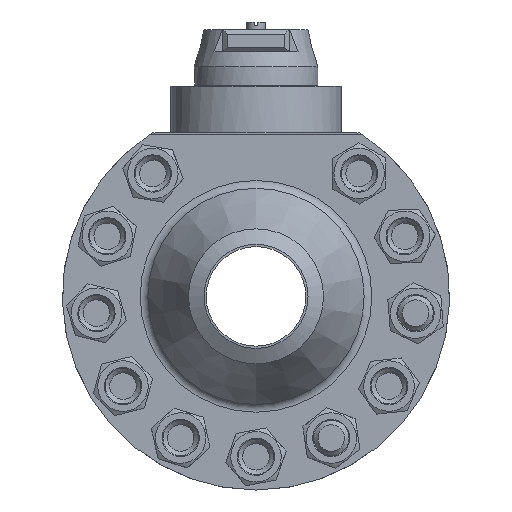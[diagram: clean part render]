
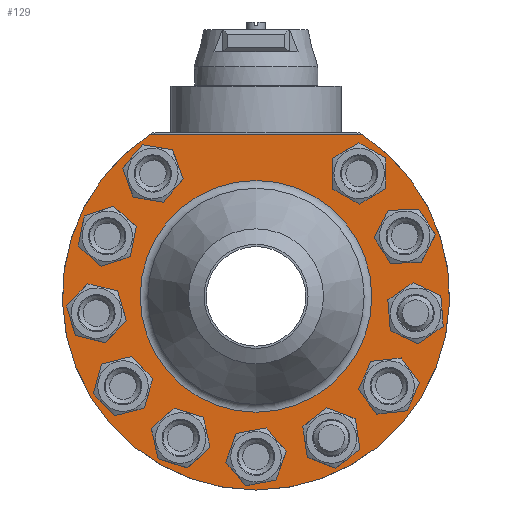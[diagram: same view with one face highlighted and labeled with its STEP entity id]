
A CAD part, left-side view. The second image highlights one B-rep face of the part: STEP entity #129.
In plain terms, the highlighted planar face has unit normal (-1, 0, 0).
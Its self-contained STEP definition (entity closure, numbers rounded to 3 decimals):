
#129=ADVANCED_FACE('',(#2927,#2929,#2931,#2933,#2935,#2937,#2939,#2941,#2943,#2945,
#2947,#2949,#2951),#2953,.T.);
#2927=FACE_BOUND('',#2928,.T.);
#2928=EDGE_LOOP('',(#7478));
#2929=FACE_BOUND('',#2930,.T.);
#2930=EDGE_LOOP('',(#7479));
#2931=FACE_BOUND('',#2932,.T.);
#2932=EDGE_LOOP('',(#7480));
#2933=FACE_BOUND('',#2934,.T.);
#2934=EDGE_LOOP('',(#7481));
#2935=FACE_BOUND('',#2936,.T.);
#2936=EDGE_LOOP('',(#7482));
#2937=FACE_BOUND('',#2938,.T.);
#2938=EDGE_LOOP('',(#7483));
#2939=FACE_BOUND('',#2940,.T.);
#2940=EDGE_LOOP('',(#7484));
#2941=FACE_BOUND('',#2942,.T.);
#2942=EDGE_LOOP('',(#7485));
#2943=FACE_BOUND('',#2944,.T.);
#2944=EDGE_LOOP('',(#7486));
#2945=FACE_BOUND('',#2946,.T.);
#2946=EDGE_LOOP('',(#7487));
#2947=FACE_BOUND('',#2948,.T.);
#2948=EDGE_LOOP('',(#7488));
#2949=FACE_BOUND('',#2950,.T.);
#2950=EDGE_LOOP('',(#7489));
#2951=FACE_OUTER_BOUND('',#2952,.T.);
#2952=EDGE_LOOP('',(#7490,#7491));
#2953=PLANE('',#2954);
#2954=AXIS2_PLACEMENT_3D('',#2955,#2956,#2957);
#2955=CARTESIAN_POINT('',(-57.5,0.,0.));
#2956=DIRECTION('',(-1.,0.,0.));
#2957=DIRECTION('',(0.,0.,-1.));
#7478=ORIENTED_EDGE('',*,*,#11202,.T.);
#7479=ORIENTED_EDGE('',*,*,#11203,.T.);
#7480=ORIENTED_EDGE('',*,*,#11204,.T.);
#7481=ORIENTED_EDGE('',*,*,#11205,.F.);
#7482=ORIENTED_EDGE('',*,*,#11206,.F.);
#7483=ORIENTED_EDGE('',*,*,#11207,.T.);
#7484=ORIENTED_EDGE('',*,*,#11208,.F.);
#7485=ORIENTED_EDGE('',*,*,#11209,.F.);
#7486=ORIENTED_EDGE('',*,*,#11210,.F.);
#7487=ORIENTED_EDGE('',*,*,#11211,.T.);
#7488=ORIENTED_EDGE('',*,*,#11212,.T.);
#7489=ORIENTED_EDGE('',*,*,#11213,.T.);
#7490=ORIENTED_EDGE('',*,*,#11190,.T.);
#7491=ORIENTED_EDGE('',*,*,#11192,.F.);
#11190=EDGE_CURVE('',#12507,#12505,#12508,.F.);
#11192=EDGE_CURVE('',#12507,#12505,#12510,.T.);
#11202=EDGE_CURVE('',#12523,#12523,#12524,.F.);
#11203=EDGE_CURVE('',#12525,#12525,#12526,.F.);
#11204=EDGE_CURVE('',#12527,#12527,#12528,.F.);
#11205=EDGE_CURVE('',#12529,#12529,#12530,.T.);
#11206=EDGE_CURVE('',#12531,#12531,#12532,.T.);
#11207=EDGE_CURVE('',#12533,#12533,#12534,.T.);
#11208=EDGE_CURVE('',#12535,#12535,#12536,.T.);
#11209=EDGE_CURVE('',#12537,#12537,#12538,.T.);
#11210=EDGE_CURVE('',#12539,#12539,#12540,.T.);
#11211=EDGE_CURVE('',#12541,#12541,#12542,.F.);
#11212=EDGE_CURVE('',#12543,#12543,#12544,.F.);
#11213=EDGE_CURVE('',#12545,#12545,#12546,.F.);
#12505=VERTEX_POINT('',#14683);
#12507=VERTEX_POINT('',#14687);
#12508=LINE('',#14688,#14689);
#12510=CIRCLE('',#14694,87.5);
#12523=VERTEX_POINT('',#14734);
#12524=CIRCLE('',#14735,11.4);
#12525=VERTEX_POINT('',#14739);
#12526=CIRCLE('',#14740,11.4);
#12527=VERTEX_POINT('',#14744);
#12528=CIRCLE('',#14745,11.4);
#12529=VERTEX_POINT('',#14749);
#12530=CIRCLE('',#14750,11.4);
#12531=VERTEX_POINT('',#14754);
#12532=CIRCLE('',#14755,11.4);
#12533=VERTEX_POINT('',#14759);
#12534=CIRCLE('',#14760,52.35);
#12535=VERTEX_POINT('',#14764);
#12536=CIRCLE('',#14765,11.4);
#12537=VERTEX_POINT('',#14769);
#12538=CIRCLE('',#14770,11.4);
#12539=VERTEX_POINT('',#14774);
#12540=CIRCLE('',#14775,11.4);
#12541=VERTEX_POINT('',#14779);
#12542=CIRCLE('',#14780,11.4);
#12543=VERTEX_POINT('',#14784);
#12544=CIRCLE('',#14785,11.4);
#12545=VERTEX_POINT('',#14789);
#12546=CIRCLE('',#14790,11.4);
#14683=CARTESIAN_POINT('',(-57.5,48.242,73.));
#14687=CARTESIAN_POINT('',(-57.5,-48.242,73.));
#14688=CARTESIAN_POINT('',(-57.5,48.242,73.));
#14689=VECTOR('',#14690,1.);
#14690=DIRECTION('',(0.,-1.,0.));
#14694=AXIS2_PLACEMENT_3D('',#14695,#14696,#14697);
#14695=CARTESIAN_POINT('',(-57.5,0.,0.));
#14696=DIRECTION('',(1.,0.,0.));
#14697=DIRECTION('',(0.,-0.551,0.834));
#14734=CARTESIAN_POINT('',(-57.5,-61.956,17.048));
#14735=AXIS2_PLACEMENT_3D('',#14736,#14737,#14738);
#14736=CARTESIAN_POINT('',(-57.5,-67.221,27.159));
#14737=DIRECTION('',(-1.,0.,0.));
#14738=DIRECTION('',(0.,0.462,-0.887));
#14739=CARTESIAN_POINT('',(-57.5,-48.778,-41.831));
#14740=AXIS2_PLACEMENT_3D('',#14741,#14742,#14743);
#14741=CARTESIAN_POINT('',(-57.5,-60.105,-40.541));
#14742=DIRECTION('',(-1.,0.,0.));
#14743=DIRECTION('',(0.,0.994,-0.113));
#14744=CARTESIAN_POINT('',(-57.5,7.403,-63.831));
#14745=AXIS2_PLACEMENT_3D('',#14746,#14747,#14748);
#14746=CARTESIAN_POINT('',(-57.5,0.,-72.5));
#14747=DIRECTION('',(-1.,0.,0.));
#14748=DIRECTION('',(0.,0.649,0.76));
#14749=CARTESIAN_POINT('',(-57.5,57.057,-29.556));
#14750=AXIS2_PLACEMENT_3D('',#14751,#14752,#14753);
#14751=CARTESIAN_POINT('',(-57.5,60.105,-40.541));
#14752=DIRECTION('',(-1.,0.,0.));
#14753=DIRECTION('',(0.,-0.267,0.964));
#14754=CARTESIAN_POINT('',(-57.5,56.41,30.775));
#14755=AXIS2_PLACEMENT_3D('',#14756,#14757,#14758);
#14756=CARTESIAN_POINT('',(-57.5,67.221,27.159));
#14757=DIRECTION('',(-1.,0.,0.));
#14758=DIRECTION('',(0.,-0.948,0.317));
#14759=CARTESIAN_POINT('',(-57.5,0.,-52.35));
#14760=AXIS2_PLACEMENT_3D('',#14761,#14762,#14763);
#14761=CARTESIAN_POINT('',(-57.5,0.,0.));
#14762=DIRECTION('',(1.,0.,0.));
#14763=DIRECTION('',(0.,0.,-1.));
#14764=CARTESIAN_POINT('',(-57.5,35.359,53.655));
#14765=AXIS2_PLACEMENT_3D('',#14766,#14767,#14768);
#14766=CARTESIAN_POINT('',(-57.5,46.602,55.538));
#14767=DIRECTION('',(-1.,0.,0.));
#14768=DIRECTION('',(0.,-0.986,-0.165));
#14769=CARTESIAN_POINT('',(-57.5,64.255,0.69));
#14770=AXIS2_PLACEMENT_3D('',#14771,#14772,#14773);
#14771=CARTESIAN_POINT('',(-57.5,72.103,-7.578));
#14772=DIRECTION('',(-1.,0.,0.));
#14773=DIRECTION('',(0.,-0.688,0.725));
#14774=CARTESIAN_POINT('',(-57.5,36.503,-52.884));
#14775=AXIS2_PLACEMENT_3D('',#14776,#14777,#14778);
#14776=CARTESIAN_POINT('',(-57.5,34.037,-64.014));
#14777=DIRECTION('',(-1.,0.,0.));
#14778=DIRECTION('',(0.,0.216,0.976));
#14779=CARTESIAN_POINT('',(-57.5,-23.43,-59.834));
#14780=AXIS2_PLACEMENT_3D('',#14781,#14782,#14783);
#14781=CARTESIAN_POINT('',(-57.5,-34.037,-64.014));
#14782=DIRECTION('',(-1.,0.,0.));
#14783=DIRECTION('',(0.,0.93,0.367));
#14784=CARTESIAN_POINT('',(-57.5,-62.707,-14.034));
#14785=AXIS2_PLACEMENT_3D('',#14786,#14787,#14788);
#14786=CARTESIAN_POINT('',(-57.5,-72.103,-7.578));
#14787=DIRECTION('',(-1.,0.,0.));
#14788=DIRECTION('',(0.,0.824,-0.566));
#14789=CARTESIAN_POINT('',(-57.5,-46.7,44.139));
#14790=AXIS2_PLACEMENT_3D('',#14791,#14792,#14793);
#14791=CARTESIAN_POINT('',(-57.5,-46.602,55.538));
#14792=DIRECTION('',(-1.,0.,0.));
#14793=DIRECTION('',(0.,-0.009,-1.));
